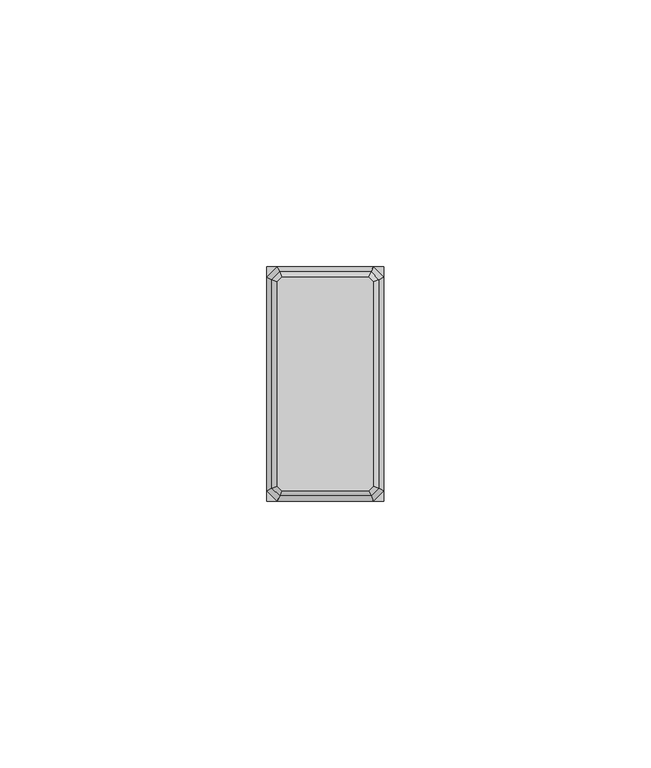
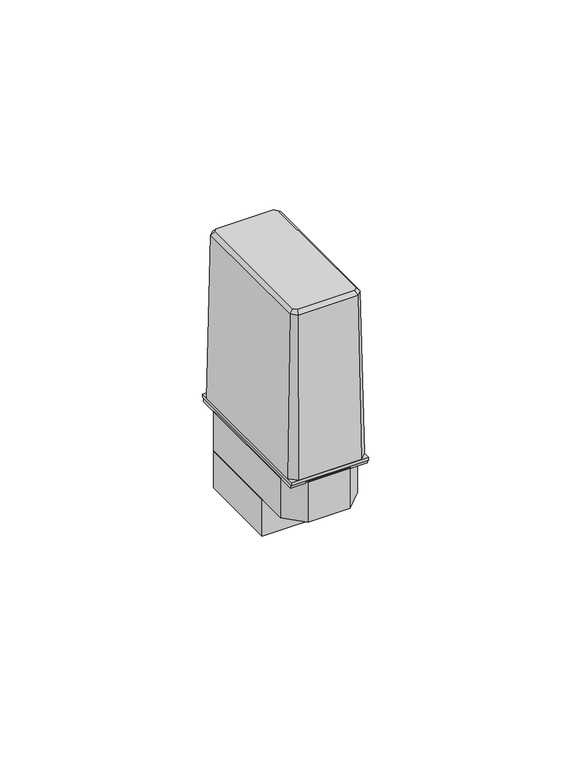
"""IFC4 building model written with IfcOpenShell, lengths in millimetres: proxy geometry, L4385-12 LI specula : L4835-12B LI specula bianca."""

from ifc_helpers import new_model, si_unit, frame, origin, origin_with_axes, place, context, project, spatial, polyline, outline, extrude, faceted_brep, source, transform, mapped, element, save


def electrical_fixtures_bef21290(model_context):
    return source(origin(), model_context, "Body", "SolidModel", [
        faceted_brep([(-8.1715729, 20.0, 51.979899), (-9.0, 19.1715729, 51.979899), (-9.0, -19.1715729, 51.979899), (-8.1715729, -20.0, 51.979899), (8.1715729, -20.0, 51.979899), (9.0, -19.1715729, 51.979899), (9.0, 19.1715729, 51.979899), (8.1715729, 20.0, 51.979899), (-8.5857864, 21.0, 50.979899), (8.5857864, 21.0, 50.979899), (10.0, 19.5857864, 50.979899), (10.0, -19.5857864, 50.979899), (8.5857864, -21.0, 50.979899), (-8.5857864, -21.0, 50.979899), (-10.0, -19.5857864, 50.979899), (-10.0, 19.5857864, 50.979899)], [[[0, 1, 2, 3, 4, 5, 6, 7]], [[8, 9, 10, 11, 12, 13, 14, 15]], [[8, 15, 1, 0]], [[15, 14, 2, 1]], [[14, 13, 3, 2]], [[13, 12, 4, 3]], [[12, 11, 5, 4]], [[11, 10, 6, 5]], [[10, 9, 7, 6]], [[9, 8, 0, 7]]]),
        faceted_brep([(8.5857864, 21.0, 50.979899), (-8.5857864, 21.0, 50.979899), (-10.0, 19.5857864, 50.979899), (-10.0, -19.5857864, 50.979899), (-8.5857864, -21.0, 50.979899), (8.5857864, -21.0, 50.979899), (10.0, -19.5857864, 50.979899), (10.0, 19.5857864, 50.979899), (9.0, 22.0, 1.979899), (11.0, 20.0, 1.979899), (11.0, -20.0, 1.979899), (9.0, -22.0, 1.979899), (-9.0, -22.0, 1.979899), (-11.0, -20.0, 1.979899), (-11.0, 20.0, 1.979899), (-9.0, 22.0, 1.979899)], [[[0, 1, 2, 3, 4, 5, 6, 7]], [[8, 9, 10, 11, 12, 13, 14, 15]], [[8, 15, 1, 0]], [[15, 14, 2, 1]], [[14, 13, 3, 2]], [[13, 12, 4, 3]], [[12, 11, 5, 4]], [[11, 10, 6, 5]], [[10, 9, 7, 6]], [[9, 8, 0, 7]]]),
        extrude(outline(polyline([(11.0, 22.0), (11.0, -22.0), (-11.0, -22.0), (-11.0, 22.0), (11.0, 22.0)])), frame((0.0, 0.0, 1.0), z_axis=(0.0, 0.0, 1.0), x_axis=(1.0, 0.0, 0.0)), (0.0, 0.0, 1.0), 0.979899),
        extrude(outline(polyline([(-11.0, -7.5), (-11.0, 16.5), (-9.0, 18.5), (9.0, 18.5), (11.0, 16.5), (11.0, -7.5), (-11.0, -7.5)])), frame((0.0, 0.0, -23.0), z_axis=(0.0, 0.0, 1.0), x_axis=(1.0, 0.0, 0.0)), (0.0, 0.0, 1.0), 11.0),
        extrude(outline(polyline([(11.0, -16.5), (6.0, -21.5), (-6.0, -21.5), (-11.0, -16.5), (-11.0, 16.5), (-6.0, 21.5), (6.0, 21.5), (11.0, 16.5), (11.0, -16.5)])), frame((0.0, 0.0, -12.0), z_axis=(0.0, 0.0, 1.0), x_axis=(1.0, 0.0, 0.0)), (0.0, 0.0, 1.0), 12.0),
        extrude(outline(polyline([(11.0, -21.5), (-11.0, -21.5), (-11.0, 21.5), (11.0, 21.5), (11.0, -21.5)])), origin_with_axes(), (0.0, 0.0, 1.0), 1.0),
    ])


if __name__ == "__main__":
    model = new_model("IFC4")
    model_context = context("Model", 3, world=origin())
    ifc_project = project(units=[si_unit("LENGTHUNIT", "METRE", prefix="MILLI")], contexts=[model_context])
    site = spatial("IfcSite", under=ifc_project)
    building = spatial("IfcBuilding", under=site)
    placement = place(None, origin())
    electrical_fixtures_shape = electrical_fixtures_bef21290(model_context)
    element("IfcBuildingElementProxy", 1, Name="L4385-12 LI specula : L4835-12B LI specula bianca", ObjectType="L4385-12 LI specula : L4835-12B LI specula bianca", at=placement, inside=building, context=model_context, shape_type="MappedRepresentation", body=[
        mapped(electrical_fixtures_shape, transform((0.0, 0.0, 0.0), x_axis=(1.0, 0.0, 0.0), y_axis=(0.0, 1.0, 0.0), z_axis=(0.0, 0.0, 1.0))),
    ])
    save(model, "model.ifc")
